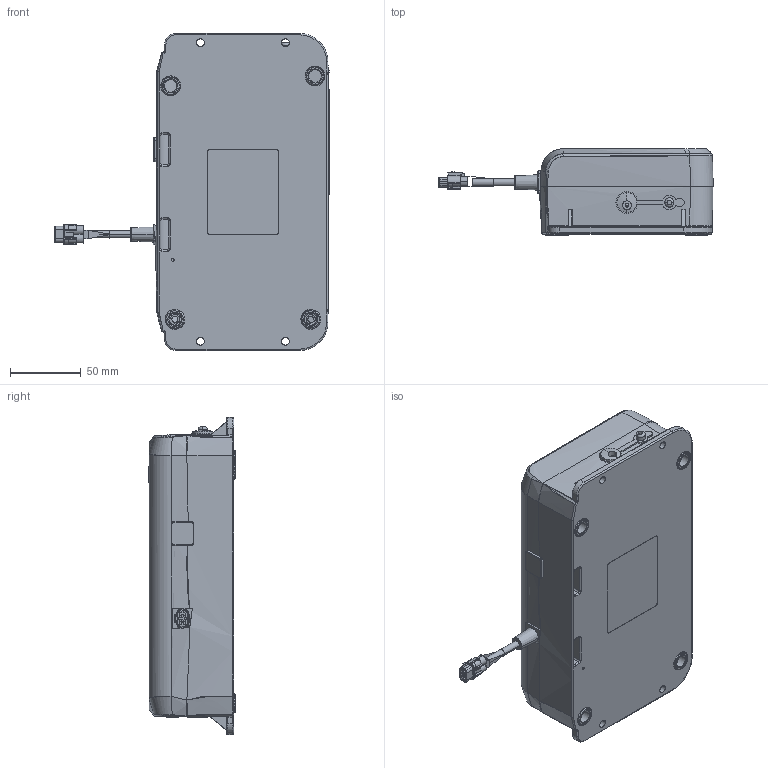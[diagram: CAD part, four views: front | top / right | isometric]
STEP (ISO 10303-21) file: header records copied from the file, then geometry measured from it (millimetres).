
FILE_DESCRIPTION (( 'STEP AP214' ), '1' );
FILE_NAME ('btp2222222222222-L.STEP', '2024-01-22T06:38:14', ( '' ), ( '' ), 'SwSTEP 2.0', 'SolidWorks 2023', '' );
FILE_SCHEMA (( 'AUTOMOTIVE_DESIGN' ));
Length unit declared in the file: millimetre
Products named in the file (1): btp2222222222222-L
Bounding box: 193.9 x 61.25 x 224 mm (x, y, z)
Surface area: 97615.9 mm2 (no closed solid volume)
Topology: 0 solids, 7 shells, 498 faces, 1268 edges, 772 vertices
Faces by surface type: plane 173, cylinder 163, bspline 92, torus 64, sphere 4, cone 2
Entity records: 23841 total; most frequent: CARTESIAN_POINT 13472, ORIENTED_EDGE 2356, DIRECTION 1656, EDGE_CURVE 1261, VERTEX_POINT 771, AXIS2_PLACEMENT_3D 628, B_SPLINE_CURVE_WITH_KNOTS 619, EDGE_LOOP 539
